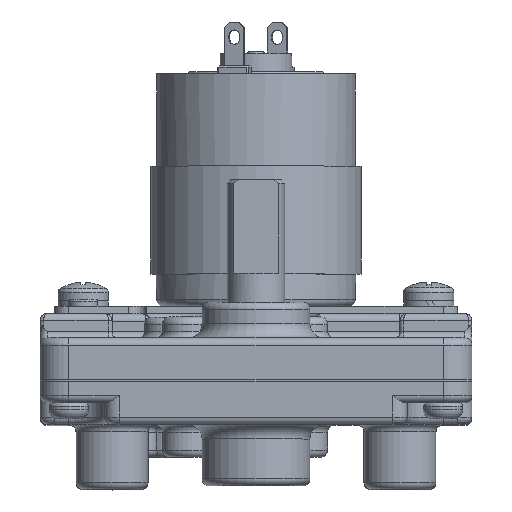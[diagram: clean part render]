
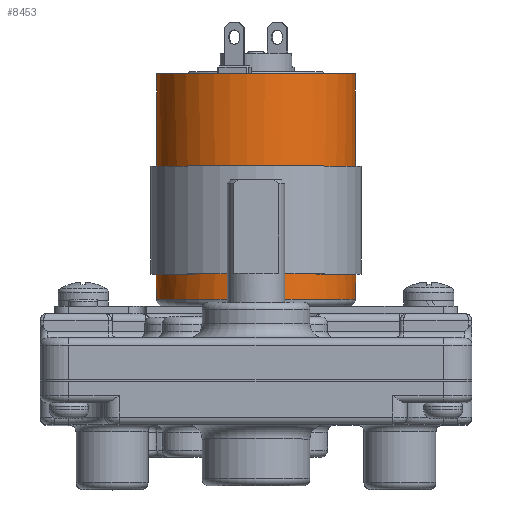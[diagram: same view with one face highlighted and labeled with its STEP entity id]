
A CAD part, top view. The second image highlights one B-rep face of the part: STEP entity #8453.
In plain terms, the highlighted cylindrical face has radius 13.85 mm (diameter 27.7 mm), a full revolution.
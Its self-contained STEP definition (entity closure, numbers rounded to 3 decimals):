
#743=FACE_OUTER_BOUND('',#1311,.T.);
#1311=EDGE_LOOP('',(#6088,#6089,#6090,#6091,#6092,#6093,#6094,#6095,#6096,
#6097,#6098,#6099,#6100));
#1814=LINE('',#13192,#2386);
#1817=LINE('',#13203,#2389);
#1970=LINE('',#13684,#2542);
#1971=LINE('',#13685,#2543);
#2386=VECTOR('',#10261,10.);
#2389=VECTOR('',#10272,10.);
#2542=VECTOR('',#10793,13.85);
#2543=VECTOR('',#10794,13.85);
#2958=CIRCLE('',#9075,13.85);
#2959=CIRCLE('',#9076,13.85);
#2960=CIRCLE('',#9078,13.85);
#2961=CIRCLE('',#9079,13.85);
#3009=CIRCLE('',#9198,13.85);
#3032=CIRCLE('',#9255,13.85);
#3033=CIRCLE('',#9256,13.85);
#3583=VERTEX_POINT('',#13185);
#3586=VERTEX_POINT('',#13190);
#3589=VERTEX_POINT('',#13200);
#3590=VERTEX_POINT('',#13202);
#3591=VERTEX_POINT('',#13206);
#3592=VERTEX_POINT('',#13210);
#3701=VERTEX_POINT('',#13556);
#3733=VERTEX_POINT('',#13678);
#3734=VERTEX_POINT('',#13680);
#4373=EDGE_CURVE('',#3583,#3586,#1814,.T.);
#4378=EDGE_CURVE('',#3590,#3589,#1817,.T.);
#4380=EDGE_CURVE('',#3591,#3583,#2958,.T.);
#4381=EDGE_CURVE('',#3589,#3591,#2959,.T.);
#4382=EDGE_CURVE('',#3586,#3592,#2960,.T.);
#4383=EDGE_CURVE('',#3592,#3590,#2961,.T.);
#4548=EDGE_CURVE('',#3701,#3701,#3009,.T.);
#4605=EDGE_CURVE('',#3733,#3734,#3032,.T.);
#4606=EDGE_CURVE('',#3734,#3733,#3033,.T.);
#4607=EDGE_CURVE('',#3701,#3591,#1970,.T.);
#4608=EDGE_CURVE('',#3592,#3734,#1971,.T.);
#6088=ORIENTED_EDGE('',*,*,#4548,.T.);
#6089=ORIENTED_EDGE('',*,*,#4607,.T.);
#6090=ORIENTED_EDGE('',*,*,#4380,.T.);
#6091=ORIENTED_EDGE('',*,*,#4373,.T.);
#6092=ORIENTED_EDGE('',*,*,#4382,.T.);
#6093=ORIENTED_EDGE('',*,*,#4608,.T.);
#6094=ORIENTED_EDGE('',*,*,#4605,.F.);
#6095=ORIENTED_EDGE('',*,*,#4606,.F.);
#6096=ORIENTED_EDGE('',*,*,#4608,.F.);
#6097=ORIENTED_EDGE('',*,*,#4383,.T.);
#6098=ORIENTED_EDGE('',*,*,#4378,.T.);
#6099=ORIENTED_EDGE('',*,*,#4381,.T.);
#6100=ORIENTED_EDGE('',*,*,#4607,.F.);
#8163=CYLINDRICAL_SURFACE('',#9257,13.85);
#8453=ADVANCED_FACE('',(#743),#8163,.T.);
#9075=AXIS2_PLACEMENT_3D('',#13207,#10276,#10277);
#9076=AXIS2_PLACEMENT_3D('',#13208,#10278,#10279);
#9078=AXIS2_PLACEMENT_3D('',#13211,#10282,#10283);
#9079=AXIS2_PLACEMENT_3D('',#13212,#10284,#10285);
#9198=AXIS2_PLACEMENT_3D('',#13557,#10639,#10640);
#9255=AXIS2_PLACEMENT_3D('',#13681,#10787,#10788);
#9256=AXIS2_PLACEMENT_3D('',#13682,#10789,#10790);
#9257=AXIS2_PLACEMENT_3D('',#13683,#10791,#10792);
#10261=DIRECTION('',(0.,-1.,0.));
#10272=DIRECTION('',(0.,1.,0.));
#10276=DIRECTION('center_axis',(0.,1.,0.));
#10277=DIRECTION('ref_axis',(1.,0.,0.));
#10278=DIRECTION('center_axis',(0.,1.,0.));
#10279=DIRECTION('ref_axis',(1.,0.,0.));
#10282=DIRECTION('center_axis',(0.,-1.,0.));
#10283=DIRECTION('ref_axis',(1.,0.,0.));
#10284=DIRECTION('center_axis',(0.,-1.,0.));
#10285=DIRECTION('ref_axis',(1.,0.,0.));
#10639=DIRECTION('center_axis',(0.,-1.,0.));
#10640=DIRECTION('ref_axis',(1.,0.,0.));
#10787=DIRECTION('center_axis',(0.,-1.,0.));
#10788=DIRECTION('ref_axis',(1.,0.,0.));
#10789=DIRECTION('center_axis',(0.,-1.,0.));
#10790=DIRECTION('ref_axis',(1.,0.,0.));
#10791=DIRECTION('center_axis',(0.,1.,0.));
#10792=DIRECTION('ref_axis',(1.,0.,0.));
#10793=DIRECTION('',(0.,-1.,0.));
#10794=DIRECTION('',(0.,-1.,0.));
#13185=CARTESIAN_POINT('',(1.25,19.5,-13.793));
#13190=CARTESIAN_POINT('',(1.25,4.5,-13.793));
#13192=CARTESIAN_POINT('',(1.25,0.,-13.793));
#13200=CARTESIAN_POINT('',(-1.25,19.5,-13.793));
#13202=CARTESIAN_POINT('',(-1.25,4.5,-13.793));
#13203=CARTESIAN_POINT('',(-1.25,0.,-13.793));
#13206=CARTESIAN_POINT('',(-13.85,19.5,0.));
#13207=CARTESIAN_POINT('Origin',(0.,19.5,0.));
#13208=CARTESIAN_POINT('Origin',(0.,19.5,0.));
#13210=CARTESIAN_POINT('',(-13.85,4.5,0.));
#13211=CARTESIAN_POINT('Origin',(0.,4.5,0.));
#13212=CARTESIAN_POINT('Origin',(0.,4.5,0.));
#13556=CARTESIAN_POINT('',(-13.85,32.3,0.));
#13557=CARTESIAN_POINT('Origin',(0.,32.3,0.));
#13678=CARTESIAN_POINT('',(0.,1.,13.85));
#13680=CARTESIAN_POINT('',(-13.85,1.,0.));
#13681=CARTESIAN_POINT('Origin',(0.,1.,0.));
#13682=CARTESIAN_POINT('Origin',(0.,1.,0.));
#13683=CARTESIAN_POINT('Origin',(0.,0.,0.));
#13684=CARTESIAN_POINT('',(-13.85,0.,0.));
#13685=CARTESIAN_POINT('',(-13.85,0.,0.));
